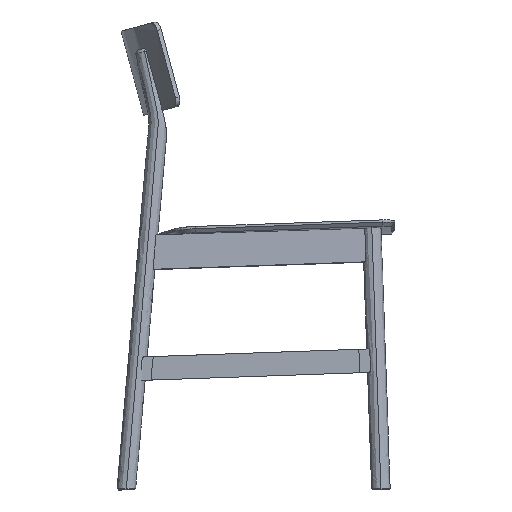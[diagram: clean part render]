
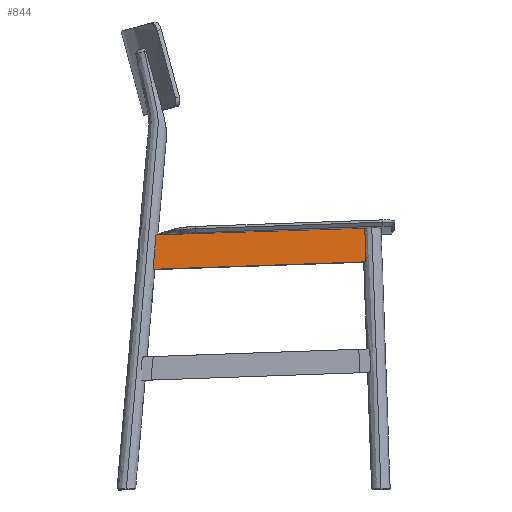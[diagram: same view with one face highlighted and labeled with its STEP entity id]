
A CAD part, left-side view. The second image highlights one B-rep face of the part: STEP entity #844.
In plain terms, the highlighted planar face has unit normal (-0.999, 0, 0.035).
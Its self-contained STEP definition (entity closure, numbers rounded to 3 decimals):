
#844=ADVANCED_FACE('',(#996),#3417,.T.);
#996=FACE_OUTER_BOUND('',#1150,.T.);
#1150=EDGE_LOOP('',(#1483,#1484,#1485,#1486));
#1483=ORIENTED_EDGE('',*,*,#2068,.F.);
#1484=ORIENTED_EDGE('',*,*,#2069,.T.);
#1485=ORIENTED_EDGE('',*,*,#2062,.F.);
#1486=ORIENTED_EDGE('',*,*,#2073,.T.);
#2062=EDGE_CURVE('',#3036,#3037,#2592,.T.);
#2068=EDGE_CURVE('',#3043,#3040,#2597,.T.);
#2069=EDGE_CURVE('',#3043,#3037,#2474,.T.);
#2073=EDGE_CURVE('',#3036,#3040,#2477,.T.);
#2474=(
BOUNDED_CURVE()
B_SPLINE_CURVE(3,(#6772,#6773,#6774,#6775,#6776,#6777,#6778),
 .UNSPECIFIED.,.F.,.F.)
B_SPLINE_CURVE_WITH_KNOTS((4,3,4),(0.927,56.354,60.356),
 .UNSPECIFIED.)
CURVE()
GEOMETRIC_REPRESENTATION_ITEM()
RATIONAL_B_SPLINE_CURVE((1.,1.,1.,1.,1.,1.,1.))
REPRESENTATION_ITEM('')
);
#2477=(
BOUNDED_CURVE()
B_SPLINE_CURVE(1,(#6798,#6799),.UNSPECIFIED.,.F.,.F.)
B_SPLINE_CURVE_WITH_KNOTS((2,2),(940.816,998.613),
 .UNSPECIFIED.)
CURVE()
GEOMETRIC_REPRESENTATION_ITEM()
RATIONAL_B_SPLINE_CURVE((1.,1.))
REPRESENTATION_ITEM('')
);
#2592=B_SPLINE_CURVE_WITH_KNOTS('',1,(#6732,#6733),.UNSPECIFIED.,.F.,.F.,
(2,2),(-441.269,-75.116),.UNSPECIFIED.);
#2597=B_SPLINE_CURVE_WITH_KNOTS('',3,(#6762,#6763,#6764,#6765,#6766,#6767,
#6768,#6769,#6770,#6771),.UNSPECIFIED.,.F.,.F.,(4,3,3,4),(82.359,
114.888,302.792,441.271),.UNSPECIFIED.);
#3036=VERTEX_POINT('',#6724);
#3037=VERTEX_POINT('',#6725);
#3040=VERTEX_POINT('',#6728);
#3043=VERTEX_POINT('',#6731);
#3417=PLANE('',#3589);
#3589=AXIS2_PLACEMENT_3D('',#6704,#3637,$);
#3637=DIRECTION('',(-0.999,0.,0.035));
#6704=CARTESIAN_POINT('',(-171.687,186.334,463.752));
#6724=CARTESIAN_POINT('',(-173.953,-216.309,398.851));
#6725=CARTESIAN_POINT('',(-174.399,149.621,386.081));
#6728=CARTESIAN_POINT('',(-171.938,-214.292,456.578));
#6731=CARTESIAN_POINT('',(-172.333,144.442,445.247));
#6732=CARTESIAN_POINT('',(-173.953,-216.309,398.851));
#6733=CARTESIAN_POINT('',(-174.399,149.621,386.081));
#6762=CARTESIAN_POINT('',(-172.333,144.442,445.247));
#6763=CARTESIAN_POINT('',(-172.322,133.604,445.582));
#6764=CARTESIAN_POINT('',(-172.31,122.766,445.918));
#6765=CARTESIAN_POINT('',(-172.298,111.928,446.253));
#6766=CARTESIAN_POINT('',(-172.231,49.324,448.191));
#6767=CARTESIAN_POINT('',(-172.161,-13.28,450.172));
#6768=CARTESIAN_POINT('',(-172.092,-75.883,452.167));
#6769=CARTESIAN_POINT('',(-172.04,-122.019,453.637));
#6770=CARTESIAN_POINT('',(-171.989,-168.155,455.115));
#6771=CARTESIAN_POINT('',(-171.938,-214.292,456.578));
#6772=CARTESIAN_POINT('',(-172.333,144.442,445.247));
#6773=CARTESIAN_POINT('',(-172.976,146.052,426.853));
#6774=CARTESIAN_POINT('',(-173.618,147.662,408.459));
#6775=CARTESIAN_POINT('',(-174.26,149.272,390.065));
#6776=CARTESIAN_POINT('',(-174.307,149.389,388.737));
#6777=CARTESIAN_POINT('',(-174.353,149.505,387.409));
#6778=CARTESIAN_POINT('',(-174.399,149.621,386.081));
#6798=CARTESIAN_POINT('',(-173.953,-216.309,398.851));
#6799=CARTESIAN_POINT('',(-171.938,-214.292,456.578));
